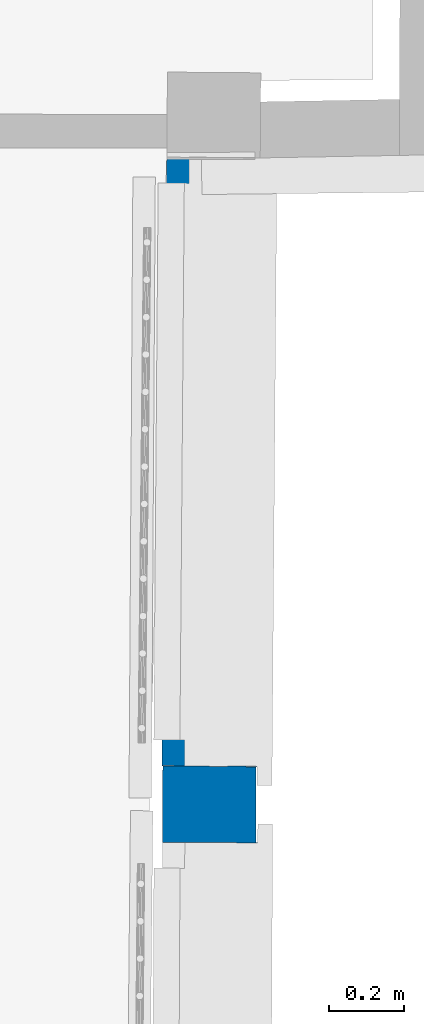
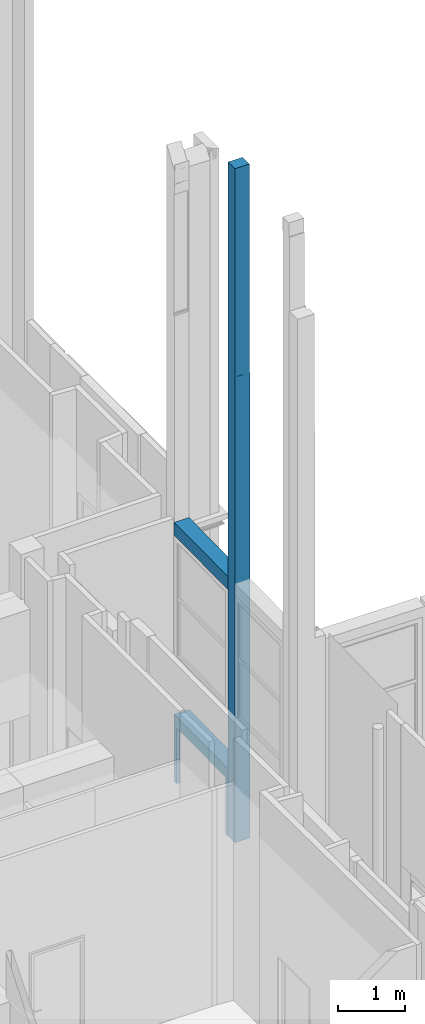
# One storey, part 18 of 97: 2 walls, 2 openings.
"""IFC2X3 building model written with IfcOpenShell, lengths in centimetres."""

from ifc_helpers import new_model, entity, si_unit, converted_unit, direction, frame, origin, origin_with_axes, origin_2d_with_axis, place, context, subcontext, project, spatial, polyline, rectangle, outline, extrude, clip, bounded_halfspace, faceted_brep, shape, material, layer, layer_set, layer_usage, type_object, element, save


model = new_model("IFC2X3")

# Units and contexts
model_context = context("Model", 3, precision=0.0001, world=origin(), true_north=direction((0.225632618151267, 0.974212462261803, 0.0)))
body_context = subcontext(model_context, "Body", "Model", "MODEL_VIEW")
footprint_context = subcontext(model_context, "FootPrint", "Model", "MODEL_VIEW")
profile_context = subcontext(model_context, "Profile", "Model", "MODEL_VIEW")
ifc_project = project(units=[si_unit("LENGTHUNIT", "METRE", prefix="CENTI"), si_unit("AREAUNIT", "SQUARE_METRE", prefix="CENTI"), si_unit("VOLUMEUNIT", "CUBIC_METRE", prefix="CENTI"), converted_unit("PLANEANGLEUNIT", "DEGREE", entity("IfcRatioMeasure", 0.0174532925), si_unit("PLANEANGLEUNIT", "RADIAN"), dimensions=[0, 0, 0, 0, 0, 0, 0])], contexts=[model_context])

# Site, building, storey
site_placement = place(None, origin_with_axes())
site = spatial("IfcSite", under=ifc_project, at=site_placement, Name="Default Site", CompositionType="ELEMENT")
building_placement = place(site_placement, origin_with_axes())
building = spatial("IfcBuilding", under=site, at=building_placement, Name="Default Building", CompositionType="ELEMENT")
storey_placement = place(building_placement, origin_with_axes())
storey = spatial("IfcBuildingStorey", under=building, at=storey_placement, Name="Rez-de-chaussée", CompositionType="ELEMENT", Elevation=0.0)

# Wall
ifc_material = material(Name="<aucun>")
ifc_layer_1 = layer(ifc_material, 25.0)
ifc_layer_set_1 = layer_set([ifc_layer_1], Name="default")
ifc_layer_usage_1 = layer_usage(ifc_layer_set_1, "AXIS2", "POSITIVE", -12.5)
wall_type_1 = type_object("IfcWallType", Name="default 250", PredefinedType="NOTDEFINED", material=ifc_layer_set_1)
wall_1_placement = place(storey_placement, frame((1083.94855222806, -32.4676810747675, 0.0128503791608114), z_axis=(0.0, 0.0, 1.0), x_axis=(0.00502234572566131, 0.999987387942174, 0.0)))
solid_1 = clip(clip(clip(clip(clip(clip(clip(clip(extrude(outline(polyline([(20.2880255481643, 12.7238193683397), (20.2874386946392, 12.5007468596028), (-0.0929269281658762, 12.4999999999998), (-0.0929269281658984, -13.0000000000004), (0.0070705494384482, -12.9994977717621), (2.27595720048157e-13, -12.5000000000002), (20.1580439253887, -12.5), (20.1563226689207, -12.775883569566), (20.2992396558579, -12.7756818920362), (20.3000494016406, -12.4996923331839), (20.5186681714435, -12.4992204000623), (20.3589064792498, 4.65353667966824), (20.4154134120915, 12.7229273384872), (20.2880255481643, 12.7238193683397)])), origin_with_axes(), (0.0, 0.0, 1.0), 1228.78887877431), bounded_halfspace(frame((-0.0929269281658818, 12.4999999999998, 472.782507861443), z_axis=(0.0, 0.0, 1.0), x_axis=(1.0, 2.85443370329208e-12, 0.0)), True, frame((-0.0929269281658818, 12.4999999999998, 472.782507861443), z_axis=(0.0, 0.0, 1.0), x_axis=(1.0, 0.0, 0.0)), polyline([(-2.22044604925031e-14, -25.5000000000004), (0.0, 0.0), (0.0929269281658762, 0.0), (0.099999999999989, -25.5000000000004), (-2.22044604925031e-14, -25.5000000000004)]))), bounded_halfspace(frame((20.1992428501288, -12.7761841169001, 472.782507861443), z_axis=(0.0, 0.0, 1.0), x_axis=(-0.999975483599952, 0.00700229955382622, 0.0)), True, frame((20.1992428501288, -12.7761841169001, 472.782507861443), z_axis=(0.0, 0.0, 1.0), x_axis=(1.0, 0.0, 0.0)), polyline([(-0.0429201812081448, 0.000300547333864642), (-0.0411989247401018, 0.276184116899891), (0.00080766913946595, 0.276184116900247), (1.11022302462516e-14, -1.77635683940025e-13), (-0.0429201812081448, 0.000300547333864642)]))), bounded_halfspace(frame((20.4154134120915, 12.7229273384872, 472.782507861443), z_axis=(0.0, 0.0, 1.0), x_axis=(-0.00700229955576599, -0.999975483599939, 0.0)), True, frame((20.4154134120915, 12.7229273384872, 472.782507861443), z_axis=(0.0, 0.0, 1.0), x_axis=(1.0, 0.0, 0.0)), polyline([(-0.0422504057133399, -0.222108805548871), (-0.0415989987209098, 0.000641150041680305), (5.55111512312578e-15, 0.0), (-0.00155136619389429, -0.221545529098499), (-0.0422504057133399, -0.222108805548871)]))), bounded_halfspace(frame((20.4138620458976, 12.5013818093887, 472.782507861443), z_axis=(0.0, 0.0, 1.0), x_axis=(-0.00700229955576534, -0.999975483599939, 0.0)), True, frame((20.4138620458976, 12.5013818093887, 472.782507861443), z_axis=(0.0, 0.0, 1.0), x_axis=(1.0, 0.0, 0.0)), polyline([(-0.0585730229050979, -8.36462171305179), (-0.0406990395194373, -0.000563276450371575), (8.32667268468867e-15, 0.0), (-0.0585730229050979, -8.36462171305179)]))), bounded_halfspace(frame((20.3552890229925, 4.13676009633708, 472.782507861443), z_axis=(0.0, 0.0, 1.0), x_axis=(0.00982013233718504, -0.999951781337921, 0.0)), True, frame((20.3552890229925, 4.13676009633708, 472.782507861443), z_axis=(0.0, 0.0, 1.0), x_axis=(1.0, 0.0, 0.0)), polyline([(-0.0552380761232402, -16.6367600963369), (8.32667268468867e-15, -1.77635683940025e-13), (0.0430746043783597, -4.38614530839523), (-0.0427099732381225, -16.6367600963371), (-0.0552380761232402, -16.6367600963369)]))), bounded_halfspace(frame((20.3439806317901, 2.52184575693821, 472.782507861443), z_axis=(0.0, 0.0, 1.0), x_axis=(0.00292437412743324, 0.99999572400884, 0.0)), True, frame((20.3439806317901, 2.52184575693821, 472.782507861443), z_axis=(0.0, 0.0, 1.0), x_axis=(1.0, 0.0, 0.0)), polyline([(8.32667268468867e-15, -1.77635683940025e-13), (0.00623376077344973, 2.13164726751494), (8.32667268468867e-15, -1.77635683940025e-13)]))), bounded_halfspace(frame((20.5186720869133, -12.4999999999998, 848.897523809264), z_axis=(0.0, 0.0, 1.0), x_axis=(-1.0, -3.55129987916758e-13, 0.0)), True, frame((20.5186720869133, -12.4999999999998, 848.897523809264), z_axis=(0.0, 0.0, 1.0), x_axis=(1.0, 0.0, 0.0)), polyline([(-0.15522821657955, 0.0), (-0.119610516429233, 12.1795455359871), (8.32667268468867e-15, 0.0), (-0.15522821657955, 0.0)]))), bounded_halfspace(frame((20.3634438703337, -12.4999999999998, 848.897523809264), z_axis=(0.0, 0.0, 1.0), x_axis=(-1.0, 4.43720060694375e-12, 0.0)), True, frame((20.3634438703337, -12.4999999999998, 848.897523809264), z_axis=(0.0, 0.0, 1.0), x_axis=(1.0, 0.0, 0.0)), polyline([(-0.0508648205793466, -1.77635683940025e-13), (0.0349197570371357, 12.2506147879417), (8.32667268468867e-15, 0.0), (-0.0508648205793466, -1.77635683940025e-13)])))
solid_2 = clip(clip(clip(clip(clip(clip(clip(clip(solid_1, bounded_halfspace(frame((20.3439806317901, 2.52184575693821, 848.897523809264), z_axis=(0.0, 0.0, 1.0), x_axis=(-0.00292437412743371, -0.999995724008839, 0.0)), True, frame((20.3439806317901, 2.52184575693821, 848.897523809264), z_axis=(0.0, 0.0, 1.0), x_axis=(1.0, 0.0, 0.0)), polyline([(-0.0708236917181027, -15.021845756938), (-0.0708236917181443, -10.1140996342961), (8.32667268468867e-15, -1.77635683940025e-13), (-0.0439296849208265, -15.021845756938), (-0.0708236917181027, -15.021845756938)]))), bounded_halfspace(frame((20.3552890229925, 4.13676009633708, 848.897523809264), z_axis=(0.0, 0.0, 1.0), x_axis=(0.00982013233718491, -0.999951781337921, 0.0)), True, frame((20.3552890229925, 4.13676009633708, 848.897523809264), z_axis=(0.0, 0.0, 1.0), x_axis=(1.0, 0.0, 0.0)), polyline([(-0.0552380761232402, -16.6367600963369), (8.32667268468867e-15, -1.77635683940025e-13), (0.0425770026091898, -4.4572061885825), (-0.0427099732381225, -16.6367600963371), (-0.0552380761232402, -16.6367600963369)]))), bounded_halfspace(frame((20.2387905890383, -12.4999999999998, 848.897523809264), z_axis=(0.0, 0.0, 1.0), x_axis=(0.0070022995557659, 0.999975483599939, 0.0)), True, frame((20.2387905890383, -12.4999999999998, 848.897523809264), z_axis=(0.0, 0.0, 1.0), x_axis=(1.0, 0.0, 0.0)), polyline([(8.32667268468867e-15, -1.77635683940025e-13), (0.0343663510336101, 4.90774612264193), (0.0343663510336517, 0.0), (8.32667268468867e-15, -1.77635683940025e-13)]))), bounded_halfspace(frame((20.2731569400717, 12.5000000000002, 848.897523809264), z_axis=(0.0, 0.0, -1.0), x_axis=(0.00982013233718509, -0.999951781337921, 0.0)), True, frame((20.2731569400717, 12.5000000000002, 848.897523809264), z_axis=(0.0, 0.0, 1.0), x_axis=(1.0, 0.0, 0.0)), polyline([(8.32667268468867e-15, 0.0), (0.0770574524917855, -7.84650697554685), (0.100006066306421, 0.000818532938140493), (8.32667268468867e-15, 0.0)]))), bounded_halfspace(frame((20.3000509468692, -12.4999999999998, 472.782507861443), z_axis=(0.0, 0.0, -1.0), x_axis=(-1.0, -3.9460362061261e-13, 0.0)), True, frame((20.3000509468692, -12.4999999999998, 472.782507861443), z_axis=(0.0, 0.0, 1.0), x_axis=(1.0, 0.0, 0.0)), polyline([(-0.0631940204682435, -0.276140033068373), (-0.000808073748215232, -0.276322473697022), (8.32667268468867e-15, 0.0), (-0.0612603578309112, -1.77635683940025e-13), (-0.0631940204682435, -0.276140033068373)]))), bounded_halfspace(frame((20.2874424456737, 12.5000000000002, 472.782507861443), z_axis=(0.0, 0.0, -1.0), x_axis=(1.0, 2.14005462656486e-12, 0.0)), True, frame((20.2874424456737, 12.5000000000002, 472.782507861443), z_axis=(0.0, 0.0, 1.0), x_axis=(1.0, 0.0, 0.0)), polyline([(8.32667268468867e-15, 0.0), (0.0265781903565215, 0.0), (0.0279741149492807, 0.223739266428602), (0.00058310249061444, 0.223819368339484), (8.32667268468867e-15, 0.0)]))), bounded_halfspace(frame((20.3502143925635, 4.65349302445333, 1088.89752380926), z_axis=(0.0, 0.0, -1.0), x_axis=(-0.00982013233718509, 0.999951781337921, 0.0)), True, frame((20.3502143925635, 4.65349302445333, 1088.89752380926), z_axis=(0.0, 0.0, 1.0), x_axis=(1.0, 0.0, 0.0)), polyline([(-0.0770574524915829, -12.2457469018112), (8.32667268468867e-15, 0.0), (-0.0770574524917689, 7.84650697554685), (-0.0770574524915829, -12.2457469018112)]))), bounded_halfspace(frame((20.3154165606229, 12.723739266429, 848.897523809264), z_axis=(0.0, 0.0, -1.0), x_axis=(-0.0062389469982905, -0.999980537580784, 0.0)), True, frame((20.3154165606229, 12.723739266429, 848.897523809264), z_axis=(0.0, 0.0, 1.0), x_axis=(1.0, 0.0, 0.0)), polyline([(-0.00139592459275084, -0.22373926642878), (0.0577464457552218, -0.222920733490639), (0.058397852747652, -0.000170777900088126), (8.32667268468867e-15, -1.77635683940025e-13), (-0.00139592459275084, -0.22373926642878)])))
solid_3 = clip(clip(clip(clip(clip(clip(clip(clip(solid_2, bounded_halfspace(frame((20.2387905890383, -12.4999999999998, 848.897523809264), z_axis=(0.0, 0.0, -1.0), x_axis=(-1.0, -2.18361179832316e-12, 0.0)), True, frame((20.2387905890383, -12.4999999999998, 848.897523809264), z_axis=(0.0, 0.0, 1.0), x_axis=(1.0, 0.0, 0.0)), polyline([(-0.0395477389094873, -0.276184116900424), (-0.00193366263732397, -0.276140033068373), (8.32667268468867e-15, -1.77635683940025e-13), (-0.0387400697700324, 0.0), (-0.0395477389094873, -0.276184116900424)]))), bounded_halfspace(frame((-0.092926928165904, -13.0000000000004, 848.897523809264), z_axis=(0.0, 0.0, -1.0), x_axis=(1.0, 5.80637100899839e-13, 0.0)), True, frame((-0.092926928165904, -13.0000000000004, 848.897523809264), z_axis=(0.0, 0.0, 1.0), x_axis=(1.0, 0.0, 0.0)), polyline([(0.0, -1.77635683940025e-13), (0.100000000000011, -1.77635683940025e-13), (0.0929269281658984, 25.5000000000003), (2.22044604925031e-14, 25.5000000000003), (0.0, -1.77635683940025e-13)]))), bounded_halfspace(frame((20.2000505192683, -12.4999999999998, 848.897523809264), z_axis=(0.0, 0.0, -1.0), x_axis=(-1.0, -1.96968916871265e-12, 0.0)), True, frame((20.2000505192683, -12.4999999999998, 848.897523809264), z_axis=(0.0, 0.0, 1.0), x_axis=(1.0, 0.0, 0.0)), polyline([(-0.0437278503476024, -0.275883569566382), (-0.000807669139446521, -0.276184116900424), (8.32667268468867e-15, 0.0), (-0.0420065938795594, -3.5527136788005e-13), (-0.0437278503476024, -0.275883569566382)]))), bounded_halfspace(frame((20.3738144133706, 12.723568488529, 848.897523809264), z_axis=(0.0, 0.0, -1.0), x_axis=(-0.00292437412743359, -0.99999572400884, 0.0)), True, frame((20.3738144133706, 12.723568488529, 848.897523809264), z_axis=(0.0, 0.0, 1.0), x_axis=(1.0, 0.0, 0.0)), polyline([(-0.000651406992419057, -0.222749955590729), (0.0400476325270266, -0.222186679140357), (0.0415989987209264, -0.000641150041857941), (1.11022302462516e-14, -1.77635683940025e-13), (-0.000651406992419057, -0.222749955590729)]))), bounded_halfspace(frame((20.3731630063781, 12.5008185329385, 848.897523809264), z_axis=(0.0, 0.0, -1.0), x_axis=(-0.00292437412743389, -0.99999572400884, 0.0)), True, frame((20.3731630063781, 12.5008185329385, 848.897523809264), z_axis=(0.0, 0.0, 1.0), x_axis=(1.0, 0.0, 0.0)), polyline([(-0.017873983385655, -8.3640584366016), (0.0406990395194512, 0.000563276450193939), (5.55111512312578e-15, -1.77635683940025e-13), (-0.017873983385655, -8.3640584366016)]))), bounded_halfspace(frame((20.3552890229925, 4.13676009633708, 1088.89752380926), z_axis=(0.0, 0.0, -1.0), x_axis=(-0.00982013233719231, 0.999951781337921, 0.0)), True, frame((20.3552890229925, 4.13676009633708, 1088.89752380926), z_axis=(0.0, 0.0, 1.0), x_axis=(1.0, 0.0, 0.0)), polyline([(-0.0113083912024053, -1.61491433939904), (8.32667268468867e-15, -1.77635683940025e-13), (-0.00507463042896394, 0.51673292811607), (-0.0113083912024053, -1.61491433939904)]))), bounded_halfspace(frame((20.399061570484, -0.320454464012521, 1088.89752380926), z_axis=(0.0, 0.0, -1.0), x_axis=(-0.0029243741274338, -0.99999572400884, 0.0)), True, frame((20.399061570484, -0.320454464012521, 1088.89752380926), z_axis=(0.0, 0.0, 1.0), x_axis=(1.0, 0.0, 0.0)), polyline([(-0.0356177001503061, -12.1795455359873), (0.119610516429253, -12.1795455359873), (1.11022302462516e-14, -1.77635683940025e-13), (-0.0356177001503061, -12.1795455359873)]))), bounded_halfspace(frame((20.399061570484, -0.320454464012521, 1088.89752380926), z_axis=(0.0, 0.0, -1.0), x_axis=(-0.0098201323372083, 0.99995178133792, 0.0)), True, frame((20.399061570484, -0.320454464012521, 1088.89752380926), z_axis=(0.0, 0.0, 1.0), x_axis=(1.0, 0.0, 0.0)), polyline([(-0.086482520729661, -12.1795455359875), (-0.0356177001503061, -12.1795455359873), (-0.000697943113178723, 0.0710692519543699), (-0.086482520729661, -12.1795455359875)])))
element("IfcWallStandardCase", 1, at=wall_1_placement, inside=storey, type_object=wall_type_1, material=ifc_layer_usage_1, Name="Enveloppe 722381", context=body_context, shape_type="Clipping", body=[
    clip(clip(clip(solid_3, bounded_halfspace(frame((20.2731569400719, -7.59225387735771, 1088.89752380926), z_axis=(0.0, 0.0, -1.0), x_axis=(9.07173641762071e-15, -1.0, 0.0)), True, frame((20.2731569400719, -7.59225387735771, 1088.89752380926), z_axis=(0.0, 0.0, 1.0), x_axis=(1.0, 0.0, 0.0)), polyline([(5.27355936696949e-14, -4.90774612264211), (0.0268940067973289, -4.90774612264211), (0.0708236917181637, 10.1140996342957), (1.11022302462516e-14, -1.77635683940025e-13), (5.27355936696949e-14, -4.90774612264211)]))), bounded_halfspace(frame((20.3439806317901, 2.52184575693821, 1088.89752380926), z_axis=(0.0, 0.0, -1.0), x_axis=(-0.00292437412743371, -0.999995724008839, 0.0)), True, frame((20.3439806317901, 2.52184575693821, 1088.89752380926), z_axis=(0.0, 0.0, 1.0), x_axis=(1.0, 0.0, 0.0)), polyline([(-0.0439296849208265, -15.021845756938), (-0.0314015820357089, -15.0218457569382), (0.0522021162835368, -2.5491592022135), (0.011308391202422, 1.61491433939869), (-0.0439296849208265, -15.021845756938)]))), bounded_halfspace(frame((20.3731630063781, 12.5008185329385, 1088.89752380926), z_axis=(0.0, 0.0, -1.0), x_axis=(-0.00292437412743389, -0.99999572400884, 0.0)), True, frame((20.3731630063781, 12.5008185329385, 1088.89752380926), z_axis=(0.0, 0.0, 1.0), x_axis=(1.0, 0.0, 0.0)), polyline([(-0.017873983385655, -8.3640584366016), (0.0406990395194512, 0.000563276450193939), (5.55111512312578e-15, -1.77635683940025e-13), (-0.017873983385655, -8.3640584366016)]))),
])

# Wall, openings
ifc_layer_2 = layer(ifc_material, 25.5)
ifc_layer_set_2 = layer_set([ifc_layer_2], Name="default")
ifc_layer_usage_2 = layer_usage(ifc_layer_set_2, "AXIS2", "POSITIVE", -12.75)
wall_type_2 = type_object("IfcWallType", Name="default 255", PredefinedType="NOTDEFINED", material=ifc_layer_set_2)
wall_2_placement = place(storey_placement, frame((1084.07627129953, -12.2315382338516, 0.0128503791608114), z_axis=(0.0, 0.0, 1.0), x_axis=(0.00794666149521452, 0.999968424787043, 0.0)))
wall_2 = element("IfcWallStandardCase", 2, at=wall_2_placement, inside=storey, type_object=wall_type_2, material=ifc_layer_usage_2, Name="Enveloppe 728194", context=body_context, shape_type="SweptSolid", body=[
    extrude(rectangle(XDim=162.842182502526, YDim=25.5000000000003, at=origin_2d_with_axis()), frame((81.58448390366, 0.0, -5.42101086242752e-18), z_axis=(0.0, 0.0, 1.0), x_axis=(1.0, 1.03909936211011e-15, 0.0)), (0.0, 0.0, 1.0), 472.782507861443),
])
opening_1_placement = place(wall_2_placement, frame((0.0223490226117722, -2.27373675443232e-13, 5.57268680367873e-06), z_axis=(0.0, 0.0, 1.0), x_axis=(-1.0, 5.72458747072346e-17, 0.0)))
cartesian_point_1 = entity("IfcCartesianPoint", [-5.55111512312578e-15, -1.77635683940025e-13, 102.685185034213])
cartesian_point_2 = entity("IfcCartesianPoint", [-163.038986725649, -12.7500000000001])
element("IfcOpeningElement", 3, at=opening_1_placement, cuts=wall_2, Name="4294966483_11", ObjectType="Opening", shapes=[
    shape(body_context, "Body", "Brep", [faceted_brep([(-7.0000001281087, -32.7499957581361, 102.685184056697), (-156.038984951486, -32.7499957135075, 102.685184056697), (-156.038984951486, -32.7499957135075, 2.34121050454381e-10), (-7.0000001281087, -32.7499957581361, 2.34121050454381e-10), (5.11833214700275e-08, 32.7499750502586, 2.34121050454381e-10), (-163.038987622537, 32.7499750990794, 2.34121050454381e-10), (-163.038987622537, 32.7499750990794, 102.685184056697), (5.11833214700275e-08, 32.7499750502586, 102.685184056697), (-7.00000012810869, -32.7499957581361, 2.34121050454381e-10), (-7.00000012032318, -6.75001022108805, 2.34121050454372e-10), (-7.00000012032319, -6.75001022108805, 102.685184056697), (-7.00000004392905, -6.75001022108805, 102.685184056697), (-7.00000004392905, -6.75001022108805, 2.34121050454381e-10), (-1.15235498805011e-07, -6.75001022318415, 2.34121050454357e-10), (-1.15235498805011e-07, -6.75001022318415, 102.685184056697), (-1.15235490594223e-07, -6.74998280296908, 102.685184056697), (-1.15235468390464e-07, -6.74998280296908, 2.34121050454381e-10), (-1.03407487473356e-07, 32.7499750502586, 2.34121050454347e-10), (-1.03407509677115e-07, 32.7499750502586, 102.685184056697), (-156.038984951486, -32.7499899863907, 2.34121050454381e-10), (-156.038984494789, -6.75000444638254, 2.34121050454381e-10), (-163.038984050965, -6.75003186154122, 2.34121050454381e-10), (-163.038987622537, 32.7500213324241, 2.34121050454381e-10), (-1.15235490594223e-07, -6.74998280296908, 2.34121050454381e-10), (-156.038984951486, -32.7499899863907, 102.685184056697), (-156.038984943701, -6.75000444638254, 102.685184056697), (-156.038984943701, -6.75000444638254, 2.34121050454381e-10), (-156.038984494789, -6.75000444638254, 102.685184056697), (-163.038984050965, -6.75000444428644, 102.685184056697), (-163.038984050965, -6.75000444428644, 2.34121050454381e-10), (-163.038984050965, -6.75003186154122, 102.685184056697), (-163.038984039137, 32.7500213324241, 102.685184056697), (-163.038984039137, 32.7500213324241, 2.34121050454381e-10), (-163.038987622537, 32.7500213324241, 102.685184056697)], [[[0, 1, 2, 3]], [[4, 5, 6, 7]], [[0, 8, 9, 10]], [[11, 12, 13, 14]], [[15, 16, 17, 18]], [[3, 19, 20, 21, 22, 4, 23, 12]], [[19, 24, 25, 26]], [[20, 27, 28, 29]], [[21, 30, 31, 32]], [[11, 15, 7, 33, 30, 27, 24, 0]]])]),
    shape(profile_context, "Profile", "GeometricCurveSet", [entity("IfcGeometricCurveSet", [entity("IfcPolyline", [cartesian_point_1, entity("IfcCartesianPoint", [1.38777878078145e-15, -1.77635683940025e-13, 0.0]), entity("IfcCartesianPoint", [-163.038986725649, 0.0, 0.0]), entity("IfcCartesianPoint", [-163.038986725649, 0.0, 102.685185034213]), cartesian_point_1])])]),
    shape(footprint_context, "FootPrint", "GeometricCurveSet", [entity("IfcGeometricCurveSet", [entity("IfcPolyline", [cartesian_point_2, entity("IfcCartesianPoint", [2.77555756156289e-15, -12.7500000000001]), entity("IfcCartesianPoint", [1.38777878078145e-15, 12.75]), entity("IfcCartesianPoint", [-163.038986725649, 12.75]), cartesian_point_2])])]),
])
opening_2_placement = place(wall_2_placement, frame((0.0664983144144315, 0.0, 122.979261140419), z_axis=(0.0, 0.0, 1.0), x_axis=(-1.0, 5.72458747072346e-17, 0.0)))
cartesian_point_3 = entity("IfcCartesianPoint", [-2.22044604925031e-14, 1.77635683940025e-13, 325.911572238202])
cartesian_point_4 = entity("IfcCartesianPoint", [-162.994837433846, -12.75])
element("IfcOpeningElement", 4, at=opening_2_placement, cuts=wall_2, Name="4294966480_11", ObjectType="Opening", shapes=[
    shape(body_context, "Body", "SweptSolid", [extrude(outline(polyline([(2.08166817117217e-14, 325.911572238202), (-1.38777878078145e-15, 0.0), (162.994837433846, 0.0), (162.994837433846, 325.911572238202), (2.08166817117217e-14, 325.911572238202)])), frame((0.0, -22.75, 0.0), z_axis=(0.0, 1.0, 0.0), x_axis=(-1.0, 0.0, 0.0)), (0.0, 0.0, 1.0), 45.5)]),
    shape(profile_context, "Profile", "GeometricCurveSet", [entity("IfcGeometricCurveSet", [entity("IfcPolyline", [cartesian_point_3, entity("IfcCartesianPoint", [0.0, 1.77635683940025e-13, 0.0]), entity("IfcCartesianPoint", [-162.994837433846, 1.77635683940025e-13, 0.0]), entity("IfcCartesianPoint", [-162.994837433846, 1.77635683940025e-13, 325.911572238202]), cartesian_point_3])])]),
    shape(footprint_context, "FootPrint", "GeometricCurveSet", [entity("IfcGeometricCurveSet", [entity("IfcPolyline", [cartesian_point_4, entity("IfcCartesianPoint", [1.38777878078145e-15, -12.75]), entity("IfcCartesianPoint", [-1.38777878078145e-15, 12.7500000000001]), entity("IfcCartesianPoint", [-162.994837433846, 12.7500000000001]), cartesian_point_4])])]),
])

save(model, "model.ifc")
